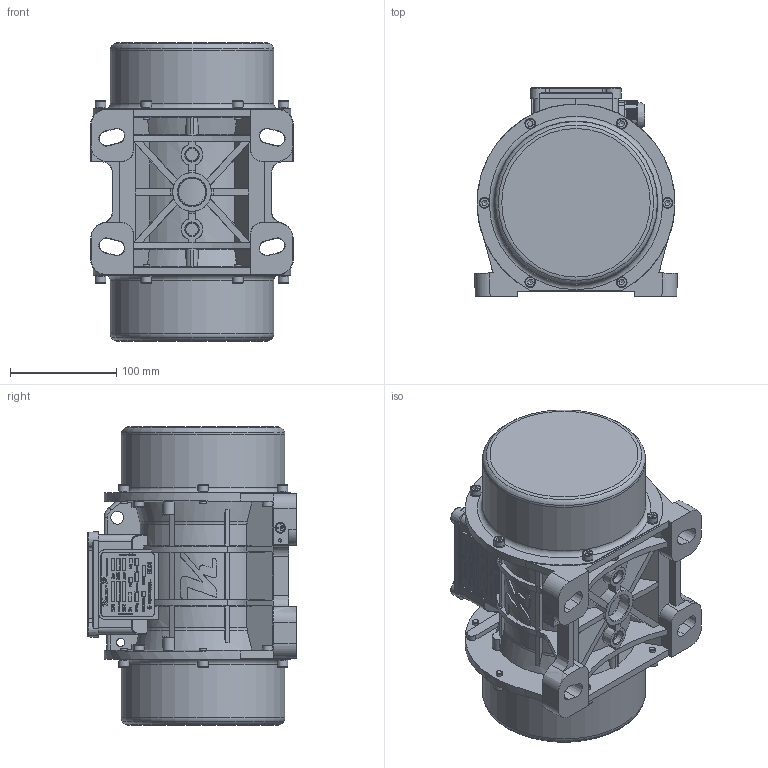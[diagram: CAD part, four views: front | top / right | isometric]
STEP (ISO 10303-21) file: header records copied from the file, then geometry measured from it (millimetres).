
FILE_DESCRIPTION(/* description */ (''),/* implementation_level */ '2;1');
FILE_NAME(/* name */ '3 NO A TAS.stp',/* time_stamp */ '2026-08-31T15:18:32+03:00',/* author */ ('PC'),/* organization */ (''),/* preprocessor_version */ 'ST-DEVELOPER v20.1',/* originating_system */ 'Autodesk Inventor 2026',/* authorisation */ '');
FILE_SCHEMA (('AUTOMOTIVE_DESIGN { 1 0 10303 214 3 1 1 }'));
Products named in the file (1): 3 NO A TAS
Bounding box: 190.76 x 196.02 x 280.6 mm (x, y, z)
Volume: 5077349.6 mm3; surface area: 320979.3 mm2
Topology: 1 solids, 30 shells, 4186 faces, 11374 edges, 7522 vertices
Faces by surface type: plane 2655, bspline 997, cylinder 294, cone 153, torus 87
Full cylindrical faces by diameter (mm): 4.018 x2, 4.134 x3, 4.917 x4, 5 x3, 6 x24, 6.4 x12, 6.5 x12, 8.5 x6, 10 x14, 14 x1, 15 x1, 20 x2, 22 x1, 23.5 x1, 23.7 x1, 24.5 x1, 24.7 x1, 153.6 x2
Entity records: 149695 total; most frequent: CARTESIAN_POINT 47459, ORIENTED_EDGE 22688, DIRECTION 15992, EDGE_CURVE 11344, LINE 7746, VECTOR 7746, VERTEX_POINT 7522, EDGE_LOOP 4584
